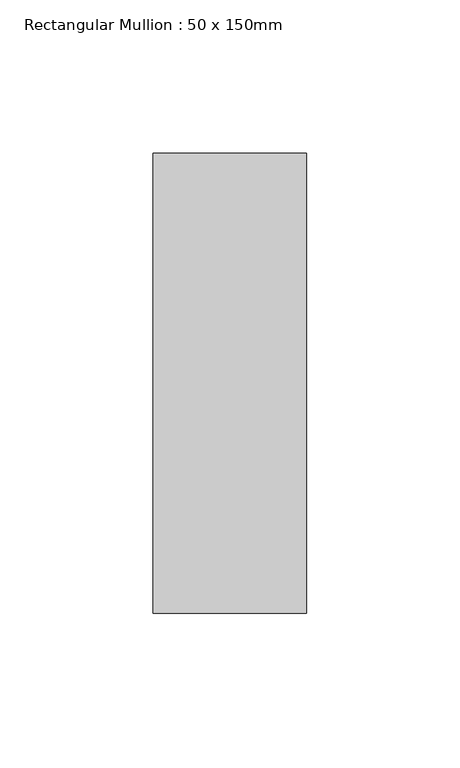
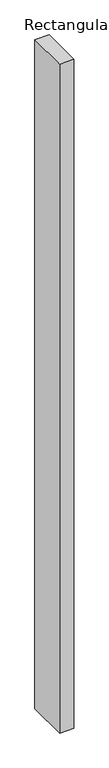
"""IFC4 building model written with IfcOpenShell, lengths in millimetres: member geometry, Rectangular Mullion : 50 x 150mm."""

from ifc_helpers import new_model, si_unit, frame, origin, place, context, project, spatial, polyline, outline, extrude, source, transform, mapped, element, save


def rectangular_mullion_50_x_150mm_edc7ebc1(model_context):
    return source(origin(), model_context, "Body", "SweptSolid", [
        extrude(outline(polyline([(25.0, 75.0), (25.0, -75.0), (-25.0, -75.0), (-25.0, 75.0), (25.0, 75.0)])), frame((0.0, 0.0, -2475.0), z_axis=(0.0, 0.0, 1.0), x_axis=(1.0, 0.0, 0.0)), (0.0, 0.0, 1.0), 2475.0),
    ])


if __name__ == "__main__":
    model = new_model("IFC4")
    model_context = context("Model", 3, world=origin())
    ifc_project = project(units=[si_unit("LENGTHUNIT", "METRE", prefix="MILLI")], contexts=[model_context])
    site = spatial("IfcSite", under=ifc_project)
    building = spatial("IfcBuilding", under=site)
    placement = place(None, origin())
    rectangular_mullion_50_x_150mm_shape = rectangular_mullion_50_x_150mm_edc7ebc1(model_context)
    element("IfcMember", 1, ObjectType="Rectangular Mullion : 50 x 150mm", at=placement, inside=building, context=model_context, shape_type="MappedRepresentation", body=[
        mapped(rectangular_mullion_50_x_150mm_shape, transform((0.0, 0.0, 0.0), x_axis=(1.0, 0.0, 0.0), y_axis=(0.0, 1.0, 0.0), z_axis=(0.0, 0.0, 1.0))),
    ])
    save(model, "model.ifc")
